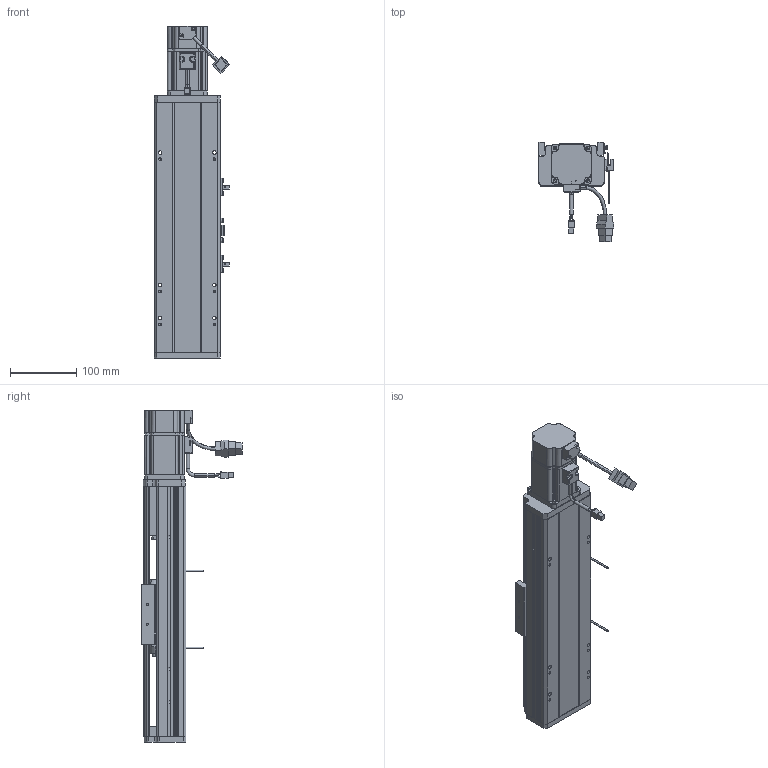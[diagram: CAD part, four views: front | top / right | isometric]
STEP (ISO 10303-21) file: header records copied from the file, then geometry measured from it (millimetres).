
FILE_DESCRIPTION (( 'STEP AP214' ), '1' );
FILE_NAME ('CTH10-150.STEP', '2019-11-18T08:27:52', ( '微软用户' ), ( '微软中国' ), 'SwSTEP 2.0', 'SolidWorks 2017', '' );
FILE_SCHEMA (( 'AUTOMOTIVE_DESIGN' ));
Length unit declared in the file: millimetre
Products named in the file (34): CTH10-侜督萇儂啣; CTH10-150; CTH10-底座_默认<按加工>; CTH10-移动座_默认<按加工>; CTH10-蹟簽蟀諉啣; CTH10-盓傅釱; SFH1605-288; SFH1605; M4-L6半圆头内六角螺丝; EE-SX672; CTH10-盖板_默认<按加工>; 怢湛200W侜督萇儂ECMA-CX0602ES; CTH10-粣創釱; BEARING_BaseModel20190604090351; 7001-DF; 粣創揤啣; COL12B-粣遠; 坶踡蹟譫; M4-L8囀鞠褒蹟佪; M3-L10囀鞠褒蹟佪; CTH10粣創釱蚾饜极; M5-L20囀鞠褒蹟佪; 遣喳蝶15x12x8; 6000Z粣創; CTH10-傷啣; M3-L8囀鞠褒蹟佪; 100耀郪-覜茼んえ; MGN12C; MGN12C-R1; MGN12C-2R420-Z0CHC; 噩砃M3-L10囀鞠褒蹟佪; 噩砃MGN12C; 噩砃MGN12C-R1; 噩砃MGN12C-2R420-Z0CHC
Assembly tree (100 placements, depth 4):
  CTH10-150
    CTH10-底座_默认<按加工>
    CTH10-移动座_默认<按加工>
    CTH10-蹟簽蟀諉啣
    CTH10-盓傅釱
    CTH10-傷啣
    CTH10-侜督萇儂啣
    SFH1605-288
    SFH1605
    CTH10-盖板_默认<按加工>
    怢湛200W侜督萇儂ECMA-CX0602ES
    CTH10粣創釱蚾饜极
      CTH10-粣創釱
      7001-DF
        BEARING_BaseModel20190604090351  x2
      粣創揤啣
      COL12B-粣遠  x2
      坶踡蹟譫
      M4-L8囀鞠褒蹟佪  x4
      M3-L10囀鞠褒蹟佪  x6
    M3-L10囀鞠褒蹟佪  x19
    M5-L20囀鞠褒蹟佪  x4
    遣喳蝶15x12x8  x3
    6000Z粣創
    M4-L6半圆头内六角螺丝  x4
    M4-L8囀鞠褒蹟佪  x8
    EE-SX672  x2
    M3-L8囀鞠褒蹟佪  x4
    100耀郪-覜茼んえ
    MGN12C-2R420-Z0CHC
      MGN12C
      MGN12C-R1  x2
      M3-L10囀鞠褒蹟佪  x8
    噩砃M3-L10囀鞠褒蹟佪
    噩砃MGN12C-2R420-Z0CHC
      噩砃MGN12C
      噩砃MGN12C-R1  x2
      噩砃M3-L10囀鞠褒蹟佪  x8
Bounding box: 114.24 x 151.37 x 502 mm (x, y, z)
Volume: 1544041 mm3; surface area: 530134.7 mm2
Topology: 96 solids, 105 shells, 4349 faces, 10842 edges, 6738 vertices
Faces by surface type: plane 2270, cylinder 1192, cone 601, bspline 241, torus 33, sphere 12
Entity records: 86486 total; most frequent: CARTESIAN_POINT 26610, ORIENTED_EDGE 12188, DIRECTION 11521, EDGE_CURVE 6094, AXIS2_PLACEMENT_3D 4010, VERTEX_POINT 3952, LINE 3501, VECTOR 3501
